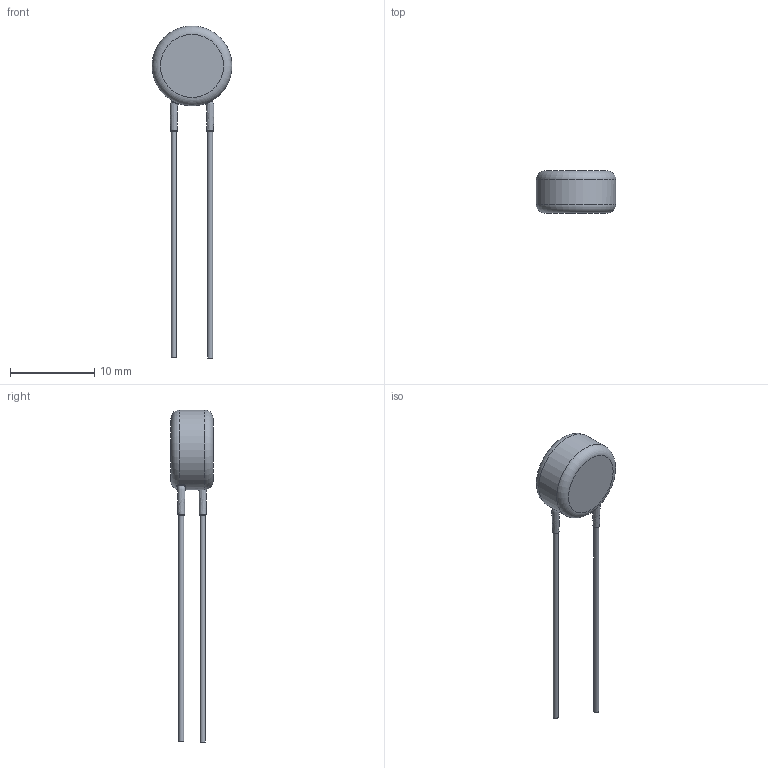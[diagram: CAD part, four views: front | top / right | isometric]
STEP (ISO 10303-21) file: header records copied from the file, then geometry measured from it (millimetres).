
FILE_DESCRIPTION(/* description */ (''),/* implementation_level */ '2;1');
FILE_NAME(/* name */ 'I:\Marketing\M6t1\3D-Models\Zchng-Werk-3\Upload for homepage\BCC neu\AY2 Straight\Step\AY2222#35Y5US63L5.stp',/* time_stamp */ '2023-07-13T14:03:08+02:00',/* author */ ('truediger'),/* organization */ (''),/* preprocessor_version */ 'ST-DEVELOPER v18',/* originating_system */ 'Autodesk Inventor 2020',/* authorisation */ '');
FILE_SCHEMA (('AUTOMOTIVE_DESIGN { 1 0 10303 214 3 1 1 }'));
Length unit declared in the file: millimetre
Products named in the file (1): Bauteil2
Bounding box: 9.5 x 5 x 39.5 mm (x, y, z)
Volume: 361.5 mm3; surface area: 384.4 mm2
Topology: 1 solids, 1 shells, 19 faces, 47 edges, 32 vertices
Faces by surface type: bspline 8, plane 6, cylinder 3, torus 2
Full cylindrical faces by diameter (mm): 0.6 x2, 9.5 x1
Entity records: 1489 total; most frequent: CARTESIAN_POINT 1008, ORIENTED_EDGE 94, DIRECTION 75, EDGE_CURVE 47, AXIS2_PLACEMENT_3D 36, VERTEX_POINT 32, CIRCLE 24, EDGE_LOOP 21
